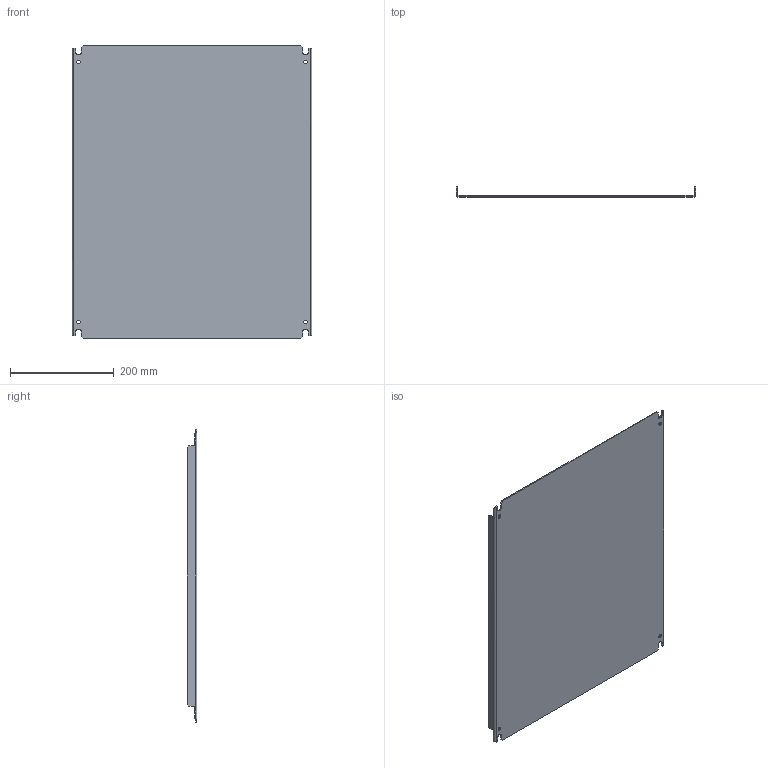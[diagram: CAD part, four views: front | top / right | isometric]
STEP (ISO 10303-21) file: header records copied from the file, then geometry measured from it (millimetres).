
FILE_DESCRIPTION(/* description */ ('Unknown'),/* implementation_level */ '2;1');
FILE_NAME(/* name */ 'EPG2420',/* time_stamp */ '2020-02-11T13:49:57-05:00',/* author */ ('Unknown'),/* organization */ ('Unknown'),/* preprocessor_version */ 'ST-DEVELOPER v16.7',/* originating_system */ 'DEX',/* authorisation */ $);
FILE_SCHEMA (('AUTOMOTIVE_DESIGN {1 0 10303 214 3 1 1}'));
Length unit declared in the file: millimetre
Products named in the file (2): EPG2420; COM54676-3
Assembly tree (1 placements, depth 2):
  EPG2420
    COM54676-3
Bounding box: 461.52 x 19.05 x 563.12 mm (x, y, z)
Volume: 662272.1 mm3; surface area: 554406.6 mm2
Topology: 1 solids, 1 shells, 78 faces, 208 edges, 132 vertices
Faces by surface type: plane 50, cylinder 20, bspline 8
Full cylindrical faces by diameter (mm): 7.137 x4
Entity records: 2620 total; most frequent: CARTESIAN_POINT 692, ORIENTED_EDGE 400, DIRECTION 368, EDGE_CURVE 200, LINE 144, VECTOR 144, VERTEX_POINT 128, AXIS2_PLACEMENT_3D 112
